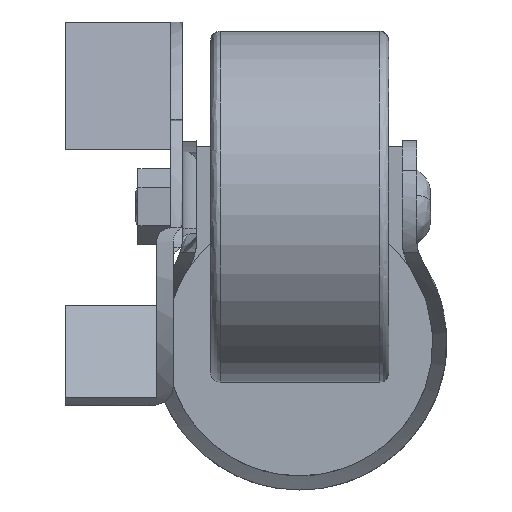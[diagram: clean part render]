
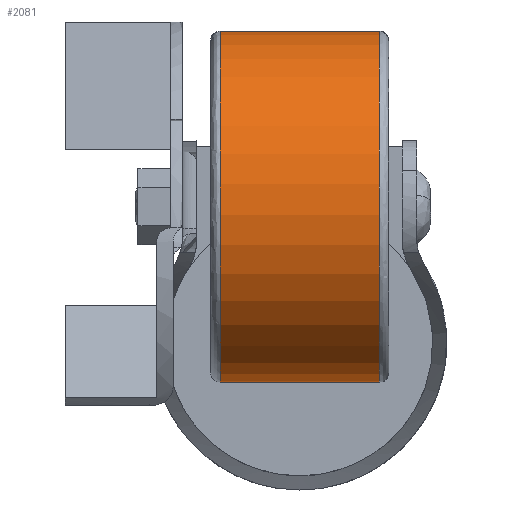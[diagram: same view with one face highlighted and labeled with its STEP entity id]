
A CAD part, front view. The second image highlights one B-rep face of the part: STEP entity #2081.
In plain terms, the highlighted cylindrical face has radius 37.5 mm (diameter 75 mm), a partial arc.
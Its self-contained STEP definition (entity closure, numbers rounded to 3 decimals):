
#18 = CARTESIAN_POINT ( 'NONE',  ( -114.141, -35.255, 29. ) ) ;
#82 = CARTESIAN_POINT ( 'NONE',  ( 15.664, -36.928, 66.463 ) ) ;
#436 = CARTESIAN_POINT ( 'NONE',  ( -114.141, -33.582, -8.463 ) ) ;
#443 = AXIS2_PLACEMENT_3D ( 'NONE', #18, #2944, #1806 ) ;
#449 = CYLINDRICAL_SURFACE ( 'NONE', #443, 37.5 ) ;
#729 = ORIENTED_EDGE ( 'NONE', *, *, #2993, .T. ) ;
#908 = DIRECTION ( 'NONE',  ( -1., 0., 0. ) ) ;
#1111 = LINE ( 'NONE', #3421, #2957 ) ;
#1204 = CARTESIAN_POINT ( 'NONE',  ( -18.336, -35.255, 29. ) ) ;
#1228 = VERTEX_POINT ( 'NONE', #3861 ) ;
#1555 = ORIENTED_EDGE ( 'NONE', *, *, #3053, .T. ) ;
#1577 = DIRECTION ( 'NONE',  ( 0., -0.045, 0.999 ) ) ;
#1664 = AXIS2_PLACEMENT_3D ( 'NONE', #1204, #3777, #1577 ) ;
#1806 = DIRECTION ( 'NONE',  ( 0., -0.045, 0.999 ) ) ;
#1916 = ORIENTED_EDGE ( 'NONE', *, *, #4429, .F. ) ;
#2066 = VERTEX_POINT ( 'NONE', #2210 ) ;
#2081 = ADVANCED_FACE ( 'NONE', ( #4315 ), #449, .T. ) ;
#2132 = LINE ( 'NONE', #436, #2267 ) ;
#2210 = CARTESIAN_POINT ( 'NONE',  ( 15.664, -33.582, -8.463 ) ) ;
#2267 = VECTOR ( 'NONE', #2988, 1000. ) ;
#2414 = ORIENTED_EDGE ( 'NONE', *, *, #2564, .T. ) ;
#2547 = VERTEX_POINT ( 'NONE', #82 ) ;
#2564 = EDGE_CURVE ( 'NONE', #2547, #1228, #1111, .T. ) ;
#2637 = DIRECTION ( 'NONE',  ( -1., 0., 0. ) ) ;
#2717 = CIRCLE ( 'NONE', #1664, 37.5 ) ;
#2944 = DIRECTION ( 'NONE',  ( -1., 0., 0. ) ) ;
#2957 = VECTOR ( 'NONE', #2637, 1000. ) ;
#2988 = DIRECTION ( 'NONE',  ( -1., 0., 0. ) ) ;
#2993 = EDGE_CURVE ( 'NONE', #1228, #3913, #2717, .T. ) ;
#3053 = EDGE_CURVE ( 'NONE', #2066, #2547, #4302, .T. ) ;
#3114 = CARTESIAN_POINT ( 'NONE',  ( 15.664, -35.255, 29. ) ) ;
#3421 = CARTESIAN_POINT ( 'NONE',  ( -114.141, -36.928, 66.463 ) ) ;
#3475 = DIRECTION ( 'NONE',  ( 0., -0.045, 0.999 ) ) ;
#3733 = CARTESIAN_POINT ( 'NONE',  ( -18.336, -33.582, -8.463 ) ) ;
#3777 = DIRECTION ( 'NONE',  ( 1., 0., 0. ) ) ;
#3861 = CARTESIAN_POINT ( 'NONE',  ( -18.336, -36.928, 66.463 ) ) ;
#3913 = VERTEX_POINT ( 'NONE', #3733 ) ;
#4121 = AXIS2_PLACEMENT_3D ( 'NONE', #3114, #908, #3475 ) ;
#4302 = CIRCLE ( 'NONE', #4121, 37.5 ) ;
#4315 = FACE_OUTER_BOUND ( 'NONE', #4425, .T. ) ;
#4425 = EDGE_LOOP ( 'NONE', ( #1916, #1555, #2414, #729 ) ) ;
#4429 = EDGE_CURVE ( 'NONE', #2066, #3913, #2132, .T. ) ;
